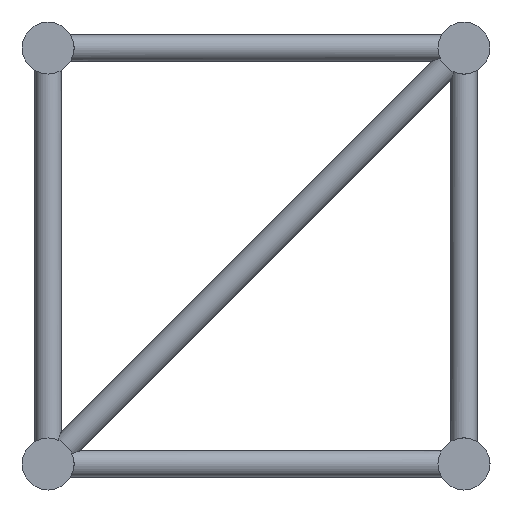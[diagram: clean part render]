
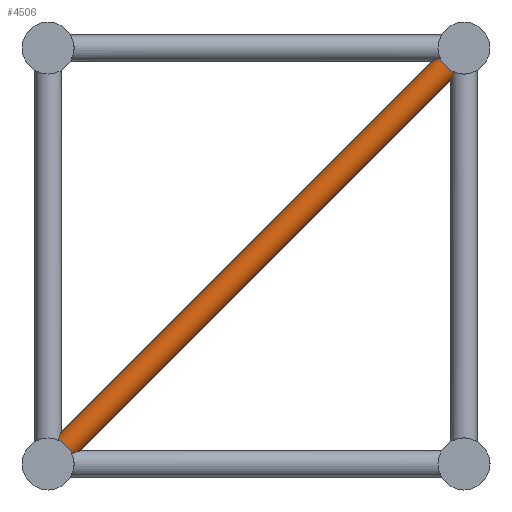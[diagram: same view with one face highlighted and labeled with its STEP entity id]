
A CAD part, left-side view. The second image highlights one B-rep face of the part: STEP entity #4506.
In plain terms, the highlighted cylindrical face has radius 15 mm (diameter 30 mm), a full revolution.
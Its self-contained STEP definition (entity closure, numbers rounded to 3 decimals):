
#625=FACE_BOUND('',#1111,.T.);
#817=FACE_OUTER_BOUND('',#1110,.T.);
#1110=EDGE_LOOP('',(#2984,#2985,#2986,#2987,#2988,#2989));
#1111=EDGE_LOOP('',(#2990,#2991,#2992,#2993));
#1537=CIRCLE('',#4779,15.);
#1538=CIRCLE('',#4780,15.);
#1566=CIRCLE('',#4829,15.);
#1567=CIRCLE('',#4830,15.);
#1581=CIRCLE('',#4853,15.);
#1582=CIRCLE('',#4855,15.);
#1748=ELLIPSE('',#4768,39.197,15.);
#1751=ELLIPSE('',#4814,39.197,15.);
#1754=ELLIPSE('',#4851,39.197,15.);
#1755=ELLIPSE('',#4854,39.197,15.);
#1856=VERTEX_POINT('',#6737);
#1857=VERTEX_POINT('',#6738);
#1862=VERTEX_POINT('',#6757);
#1863=VERTEX_POINT('',#6759);
#1884=VERTEX_POINT('',#6825);
#1885=VERTEX_POINT('',#6826);
#1914=VERTEX_POINT('',#6905);
#1915=VERTEX_POINT('',#6907);
#1916=VERTEX_POINT('',#6911);
#1917=VERTEX_POINT('',#6913);
#2256=EDGE_CURVE('',#1856,#1857,#1748,.T.);
#2265=EDGE_CURVE('',#1856,#1862,#1537,.T.);
#2267=EDGE_CURVE('',#1863,#1857,#1538,.T.);
#2298=EDGE_CURVE('',#1884,#1885,#1751,.T.);
#2314=EDGE_CURVE('',#1884,#1863,#1566,.T.);
#2315=EDGE_CURVE('',#1862,#1885,#1567,.T.);
#2340=EDGE_CURVE('',#1914,#1915,#1754,.T.);
#2341=EDGE_CURVE('',#1916,#1915,#1581,.T.);
#2342=EDGE_CURVE('',#1916,#1917,#1755,.T.);
#2343=EDGE_CURVE('',#1914,#1917,#1582,.T.);
#2984=ORIENTED_EDGE('',*,*,#2256,.T.);
#2985=ORIENTED_EDGE('',*,*,#2267,.F.);
#2986=ORIENTED_EDGE('',*,*,#2314,.F.);
#2987=ORIENTED_EDGE('',*,*,#2298,.T.);
#2988=ORIENTED_EDGE('',*,*,#2315,.F.);
#2989=ORIENTED_EDGE('',*,*,#2265,.F.);
#2990=ORIENTED_EDGE('',*,*,#2340,.T.);
#2991=ORIENTED_EDGE('',*,*,#2341,.F.);
#2992=ORIENTED_EDGE('',*,*,#2342,.T.);
#2993=ORIENTED_EDGE('',*,*,#2343,.F.);
#4107=CYLINDRICAL_SURFACE('',#4852,15.);
#4506=ADVANCED_FACE('',(#817,#625),#4107,.T.);
#4768=AXIS2_PLACEMENT_3D('',#6739,#5383,#5384);
#4779=AXIS2_PLACEMENT_3D('',#6758,#5408,#5409);
#4780=AXIS2_PLACEMENT_3D('',#6761,#5411,#5412);
#4814=AXIS2_PLACEMENT_3D('',#6827,#5489,#5490);
#4829=AXIS2_PLACEMENT_3D('',#6858,#5525,#5526);
#4830=AXIS2_PLACEMENT_3D('',#6859,#5527,#5528);
#4851=AXIS2_PLACEMENT_3D('',#6909,#5578,#5579);
#4852=AXIS2_PLACEMENT_3D('',#6910,#5580,#5581);
#4853=AXIS2_PLACEMENT_3D('',#6912,#5582,#5583);
#4854=AXIS2_PLACEMENT_3D('',#6914,#5584,#5585);
#4855=AXIS2_PLACEMENT_3D('',#6915,#5586,#5587);
#5383=DIRECTION('center_axis',(0.,-0.924,-0.383));
#5384=DIRECTION('ref_axis',(0.,-0.383,0.924));
#5408=DIRECTION('center_axis',(0.,0.707,-0.707));
#5409=DIRECTION('ref_axis',(0.,-0.707,-0.707));
#5411=DIRECTION('center_axis',(0.,0.707,-0.707));
#5412=DIRECTION('ref_axis',(0.,-0.707,-0.707));
#5489=DIRECTION('center_axis',(0.,0.383,0.924));
#5490=DIRECTION('ref_axis',(0.,-0.924,0.383));
#5525=DIRECTION('center_axis',(0.,0.707,-0.707));
#5526=DIRECTION('ref_axis',(0.,-0.707,-0.707));
#5527=DIRECTION('center_axis',(0.,0.707,-0.707));
#5528=DIRECTION('ref_axis',(0.,-0.707,-0.707));
#5578=DIRECTION('center_axis',(0.,0.924,0.383));
#5579=DIRECTION('ref_axis',(0.,-0.383,0.924));
#5580=DIRECTION('center_axis',(0.,-0.707,
0.707));
#5581=DIRECTION('ref_axis',(0.,-0.707,-0.707));
#5582=DIRECTION('center_axis',(0.,-0.707,
0.707));
#5583=DIRECTION('ref_axis',(0.,-0.707,-0.707));
#5584=DIRECTION('center_axis',(0.,-0.383,-0.924));
#5585=DIRECTION('ref_axis',(0.,-0.924,0.383));
#5586=DIRECTION('center_axis',(0.,-0.707,
0.707));
#5587=DIRECTION('ref_axis',(0.,-0.707,-0.707));
#6737=CARTESIAN_POINT('',(105.852,459.645,-445.));
#6738=CARTESIAN_POINT('',(84.148,459.645,-445.));
#6739=CARTESIAN_POINT('Origin',(95.,470.,-470.));
#6757=CARTESIAN_POINT('',(110.,452.322,-452.322));
#6758=CARTESIAN_POINT('Origin',(95.,452.322,-452.322));
#6759=CARTESIAN_POINT('',(80.,452.322,-452.322));
#6761=CARTESIAN_POINT('Origin',(95.,452.322,-452.322));
#6825=CARTESIAN_POINT('',(84.148,445.,-459.645));
#6826=CARTESIAN_POINT('',(105.852,445.,-459.645));
#6827=CARTESIAN_POINT('Origin',(95.,470.,-470.));
#6858=CARTESIAN_POINT('Origin',(95.,452.322,-452.322));
#6859=CARTESIAN_POINT('Origin',(95.,452.322,-452.322));
#6905=CARTESIAN_POINT('',(105.852,10.355,-25.));
#6907=CARTESIAN_POINT('',(84.148,10.355,-25.));
#6909=CARTESIAN_POINT('Origin',(95.,0.,
0.));
#6910=CARTESIAN_POINT('Origin',(95.,452.322,-452.322));
#6911=CARTESIAN_POINT('',(84.148,25.,-10.355));
#6912=CARTESIAN_POINT('Origin',(95.,17.678,-17.678));
#6913=CARTESIAN_POINT('',(105.852,25.,-10.355));
#6914=CARTESIAN_POINT('Origin',(95.,0.,0.));
#6915=CARTESIAN_POINT('Origin',(95.,17.678,-17.678));
